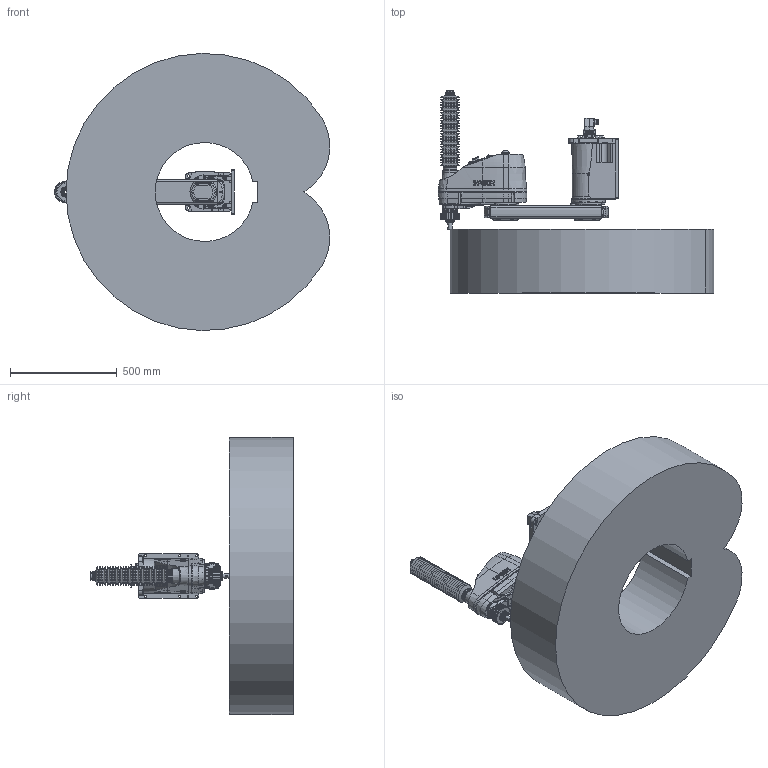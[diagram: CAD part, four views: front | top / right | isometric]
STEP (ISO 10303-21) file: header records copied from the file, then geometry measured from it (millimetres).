
FILE_DESCRIPTION( ( 'STEP AP214' ), '1' );
FILE_NAME( 'C:/Users/9607552/Desktop/GX8-B653CW_langle.stp', '2023-07-07T03:10:49', ( '' ), ( '' ), ' ', 'PARTsolutions', ' ' );
FILE_SCHEMA( ( 'AUTOMOTIVE_DESIGN { 1 0 10303 214 1 1 1 1 }' ) );
Length unit declared in the file: millimetre
Products named in the file (11): GX8-B653CWA-W; _B652CW_BASE; _B652CR; _B652CR_1; _B652CR_2; _B452C_J2; _B453CZA; _2-B-long; _2-B-short; _Angle-B; _GX8-24-1-B_WS
Assembly tree (12 placements, depth 2):
  GX8-B653CWA-W
    _B652CW_BASE
    _B652CR
    _B652CR_1  x2
    _B652CR_2  x2
    _B452C_J2
    _B453CZA
    _2-B-long
    _2-B-short
    _Angle-B
    _GX8-24-1-B_WS
Bounding box: 1291.63 x 950.5 x 1299.55 mm (x, y, z)
Volume: 360731747.3 mm3; surface area: 5507780.7 mm2
Topology: 12 solids, 16 shells, 3391 faces, 8159 edges, 5261 vertices
Faces by surface type: plane 1622, cylinder 1124, cone 444, torus 159, bspline 37, sphere 5
Full cylindrical faces by diameter (mm): 1 x48, 1.18 x55, 2.261 x4, 2.459 x12, 3 x32, 3.242 x18, 3.3 x4, 3.9 x4, 4.2 x8, 4.5 x12, 4.8 x5, 5.34 x4, 5.5 x17, 6 x6, 6.2 x4, 6.647 x4, 6.8 x2, 7 x42, 8 x5, 8.5 x4, 9 x24, 10 x24, 11 x4, 11.2 x5, 11.5 x1, 12 x5, 12.2 x1, 12.25 x1, 13 x7, 13.2 x12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
Entity records: 119820 total; most frequent: CARTESIAN_POINT 22003, DIRECTION 15040, ORIENTED_EDGE 13374, EDGE_CURVE 6687, AXIS2_PLACEMENT_3D 5889, VERTEX_POINT 4872, EDGE_LOOP 4655, FACE_OUTER_BOUND 3842
